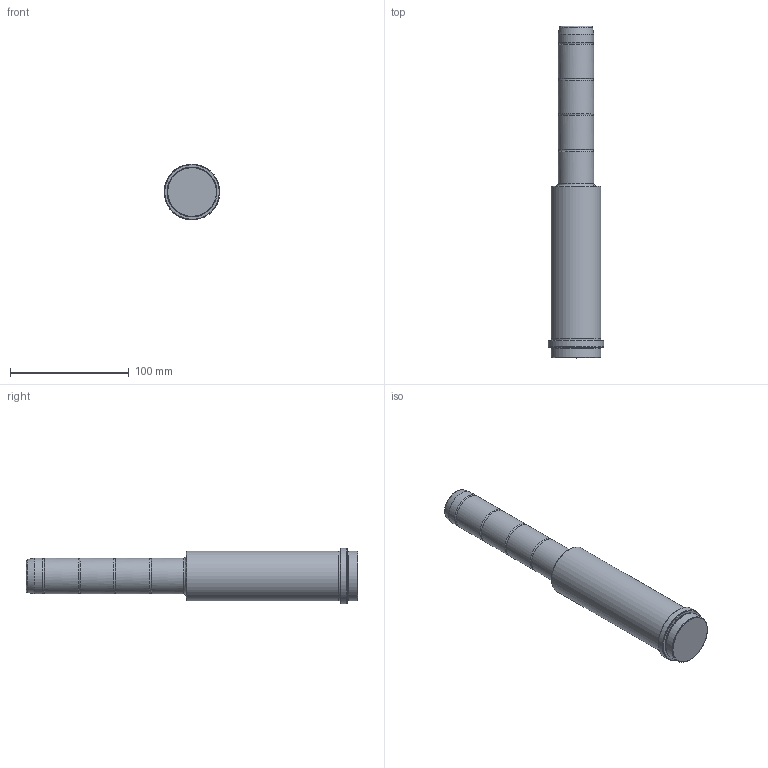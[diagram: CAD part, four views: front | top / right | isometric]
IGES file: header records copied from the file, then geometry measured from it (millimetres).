
Start section: Missler Software BP 521, 31674 Labege Cedex, France Tel   : +33 (0)5 61 00 03 00 Fax   : +33 (0)5 61 00 03 03 Email : sup.topsolid@topsolid.com
Global section: file name: D:\Cuma\24 03 2009\D03\D03_30X136X135.igs; native system: TopSolid v605250 Missler Software; preprocessor: IGES preprocessor v100000; date: 030101.003457; units: millimetre
Bounding box: 46.96 x 280 x 47 mm (x, y, z)
Surface area: 35304.6 mm2 (no closed solid volume)
Topology: 0 solids, 0 shells, 28 faces, 469 edges, 450 vertices
Faces by surface type: bspline 28
